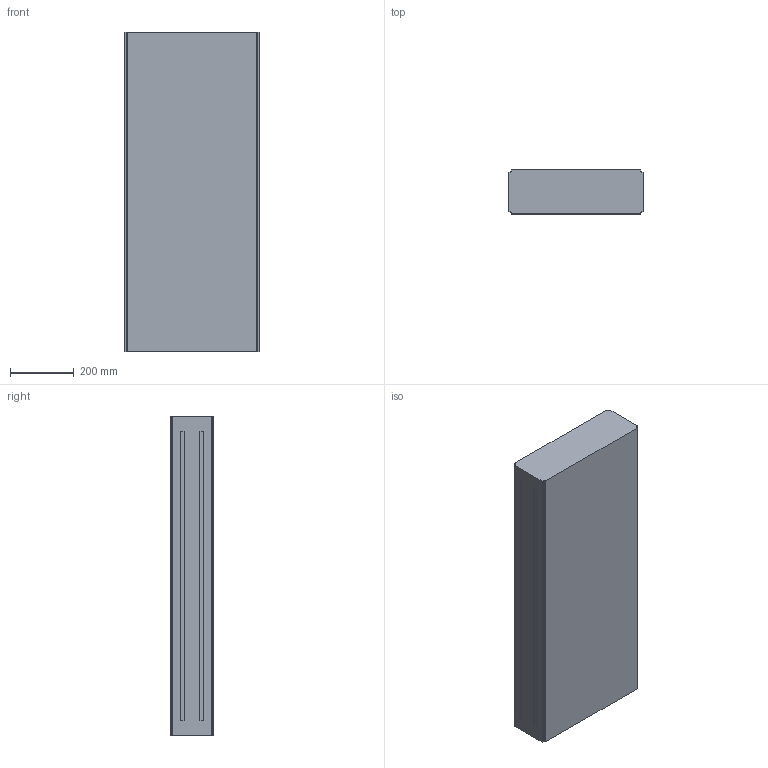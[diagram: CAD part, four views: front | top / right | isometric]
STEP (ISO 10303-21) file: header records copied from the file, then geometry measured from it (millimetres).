
FILE_DESCRIPTION (( 'STEP AP214' ), '1' );
FILE_NAME ('FS-MTC2-150-INOX Baansectie (niet gebruiken).420.STEP', '2017-02-08T12:43:27', ( '' ), ( '' ), 'SwSTEP 2.0', 'SolidWorks 2016', '' );
FILE_SCHEMA (( 'AUTOMOTIVE_DESIGN' ));
Length unit declared in the file: millimetre
Products named in the file (1): FS-MTC2-150-INOX Baansectie (niet gebruiken).420
Bounding box: 423 x 136.5 x 1000 mm (x, y, z)
Volume: 57439622.5 mm3; surface area: 1252389.4 mm2
Topology: 1 solids, 1 shells, 42 faces, 108 edges, 72 vertices
Faces by surface type: plane 42
Entity records: 1286 total; most frequent: CARTESIAN_POINT 223, ORIENTED_EDGE 216, DIRECTION 194, EDGE_CURVE 108, VECTOR 108, LINE 108, VERTEX_POINT 72, EDGE_LOOP 46
